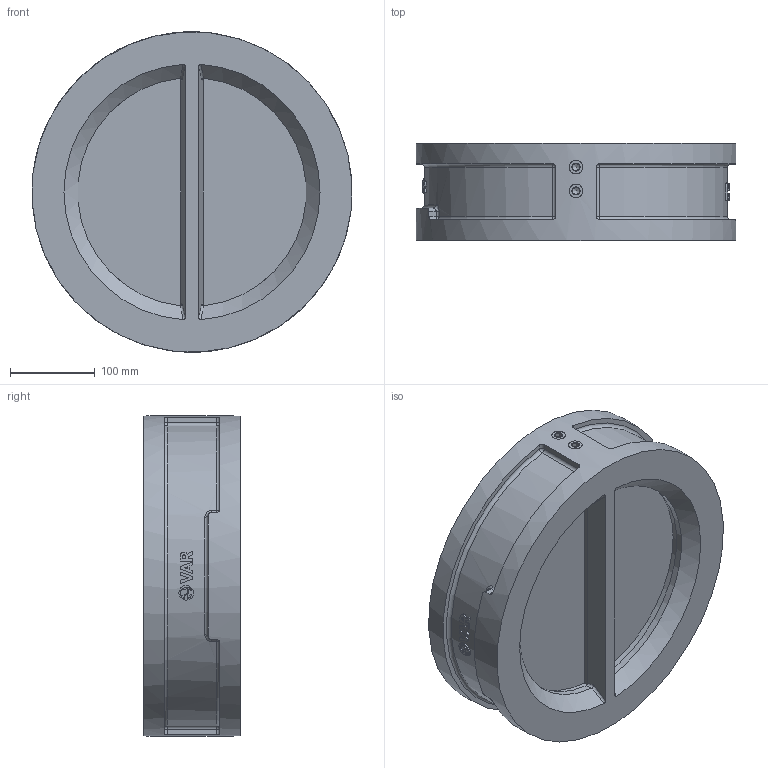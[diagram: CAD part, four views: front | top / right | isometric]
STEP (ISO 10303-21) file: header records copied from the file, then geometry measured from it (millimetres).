
FILE_DESCRIPTION(('STEP AP203'), '1');
FILE_NAME('VAR ZETKA 钺疣蝽 觌囡囗', '', ('UNSPECIFIED'), ('UNSPECIFIED'), 'C3D Converter', 'C3D Toolkit', '');
FILE_SCHEMA(('CONFIG_CONTROL_DESIGN'));
Length unit declared in the file: millimetre
Assembly tree (18 placements, depth 2):
  (unnamed)
    (unnamed)
    (unnamed)  x2
    (unnamed)  x4
    (unnamed)
    (unnamed)  x2
    (unnamed)  x2
    (unnamed)  x2
    (unnamed)  x2
    (unnamed)  x2
Bounding box: 377.34 x 114 x 378 mm (x, y, z)
Volume: 5172356 mm3; surface area: 717973 mm2
Topology: 33 solids, 33 shells, 574 faces, 1405 edges, 911 vertices
Faces by surface type: plane 245, extrusion 156, cylinder 117, bspline 22, cone 18, sphere 8, torus 8
Full cylindrical faces by diameter (mm): 4 x2, 7 x4, 10 x8, 14.4 x16, 16 x8, 17.194 x1, 26.4 x6, 306.5 x1, 310 x2, 378 x1
Entity records: 38832 total; most frequent: CARTESIAN_POINT 25625, ORIENTED_EDGE 2190, DIRECTION 1637, EDGE_CURVE 1095, VERTEX_POINT 735, VECTOR 589, EDGE_LOOP 548, B_SPLINE_CURVE_WITH_KNOTS 536
